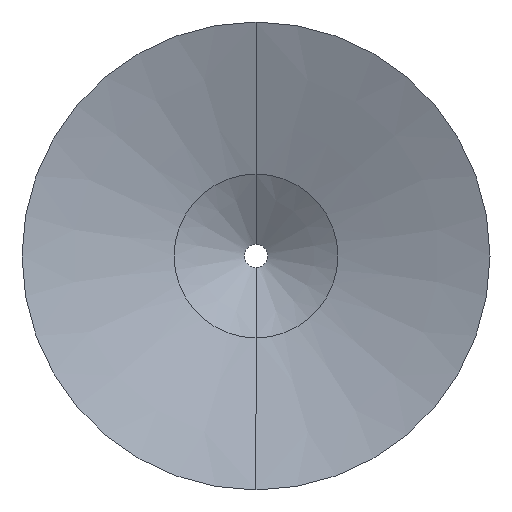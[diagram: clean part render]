
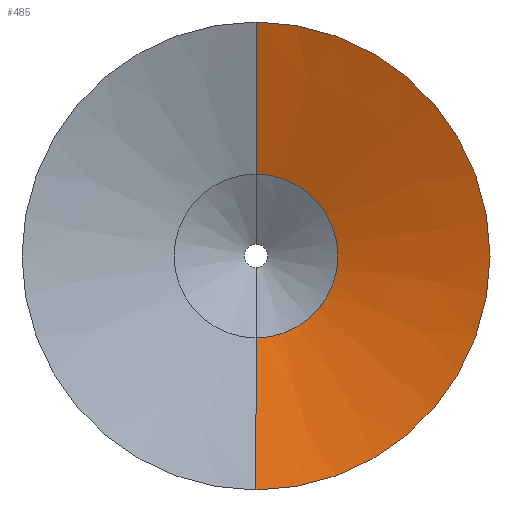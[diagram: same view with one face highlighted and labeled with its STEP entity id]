
A CAD part, left-side view. The second image highlights one B-rep face of the part: STEP entity #485.
In plain terms, the highlighted conical face has half-angle 70.765 degrees and reference radius 7 mm.
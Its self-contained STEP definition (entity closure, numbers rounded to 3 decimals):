
#11 = ORIENTED_EDGE ( 'NONE', *, *, #787, .T. ) ;
#47 = FACE_OUTER_BOUND ( 'NONE', #518, .T. ) ;
#70 = DIRECTION ( 'NONE',  ( -1., 0., 0. ) ) ;
#79 = VECTOR ( 'NONE', #219, 1000. ) ;
#86 = CARTESIAN_POINT ( 'NONE',  ( 4.536, 0., -7. ) ) ;
#91 = CARTESIAN_POINT ( 'NONE',  ( 4.536, 0., 7. ) ) ;
#112 = CARTESIAN_POINT ( 'NONE',  ( 4.536, 0., 0. ) ) ;
#113 = ORIENTED_EDGE ( 'NONE', *, *, #617, .F. ) ;
#144 = CIRCLE ( 'NONE', #652, 20. ) ;
#162 = AXIS2_PLACEMENT_3D ( 'NONE', #112, #520, #717 ) ;
#180 = EDGE_CURVE ( 'NONE', #826, #664, #144, .T. ) ;
#217 = ORIENTED_EDGE ( 'NONE', *, *, #180, .T. ) ;
#219 = DIRECTION ( 'NONE',  ( -0.329, 0., 0.944 ) ) ;
#268 = CARTESIAN_POINT ( 'NONE',  ( 0., 0., -20. ) ) ;
#280 = VERTEX_POINT ( 'NONE', #774 ) ;
#325 = DIRECTION ( 'NONE',  ( -0.329, 0., -0.944 ) ) ;
#335 = CIRCLE ( 'NONE', #162, 7. ) ;
#337 = VECTOR ( 'NONE', #325, 1000. ) ;
#345 = CONICAL_SURFACE ( 'NONE', #775, 7., 1.235 ) ;
#347 = EDGE_CURVE ( 'NONE', #730, #826, #526, .T. ) ;
#362 = CARTESIAN_POINT ( 'NONE',  ( 4.536, 0., -7. ) ) ;
#365 = DIRECTION ( 'NONE',  ( 0., 0., 1. ) ) ;
#394 = LINE ( 'NONE', #91, #79 ) ;
#404 = CARTESIAN_POINT ( 'NONE',  ( 0., 0., 20. ) ) ;
#485 = ADVANCED_FACE ( 'NONE', ( #47 ), #345, .F. ) ;
#518 = EDGE_LOOP ( 'NONE', ( #11, #767, #217, #113 ) ) ;
#520 = DIRECTION ( 'NONE',  ( 1., 0., 0. ) ) ;
#526 = LINE ( 'NONE', #86, #337 ) ;
#617 = EDGE_CURVE ( 'NONE', #280, #664, #394, .T. ) ;
#638 = CARTESIAN_POINT ( 'NONE',  ( 4.536, 0., 0. ) ) ;
#652 = AXIS2_PLACEMENT_3D ( 'NONE', #660, #667, #673 ) ;
#660 = CARTESIAN_POINT ( 'NONE',  ( 0., 0., 0. ) ) ;
#664 = VERTEX_POINT ( 'NONE', #404 ) ;
#667 = DIRECTION ( 'NONE',  ( -1., 0., 0. ) ) ;
#673 = DIRECTION ( 'NONE',  ( 0., 0., 1. ) ) ;
#717 = DIRECTION ( 'NONE',  ( 0., 0., 1. ) ) ;
#730 = VERTEX_POINT ( 'NONE', #362 ) ;
#767 = ORIENTED_EDGE ( 'NONE', *, *, #347, .T. ) ;
#774 = CARTESIAN_POINT ( 'NONE',  ( 4.536, 0., 7. ) ) ;
#775 = AXIS2_PLACEMENT_3D ( 'NONE', #638, #70, #365 ) ;
#787 = EDGE_CURVE ( 'NONE', #280, #730, #335, .T. ) ;
#826 = VERTEX_POINT ( 'NONE', #268 ) ;
